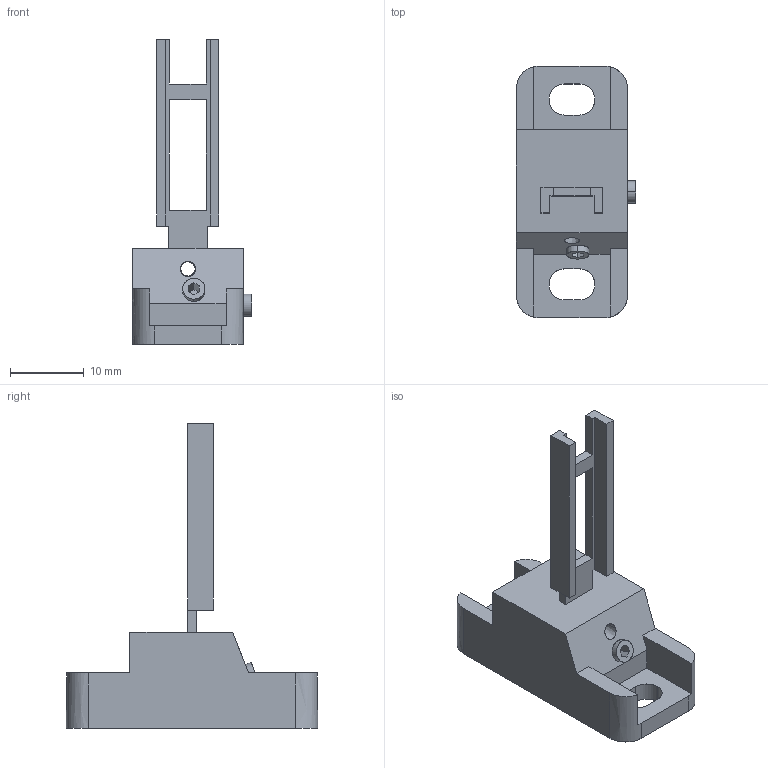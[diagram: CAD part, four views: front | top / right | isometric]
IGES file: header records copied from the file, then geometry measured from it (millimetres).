
Start section: SolidWorks IGES file using analytic representation for surfaces
Global section: file name: C:\catalog\sg-k13.IGS; native system: SolidWorks 2010; preprocessor: SolidWorks 2010; author: kk1675; date: 131128.175104; units: millimetre
Bounding box: 16.1 x 34 x 41.2 mm (x, y, z)
Surface area: 3123 mm2 (no closed solid volume)
Topology: 0 solids, 0 shells, 84 faces, 928 edges, 928 vertices
Faces by surface type: bspline 64, revolution 20
